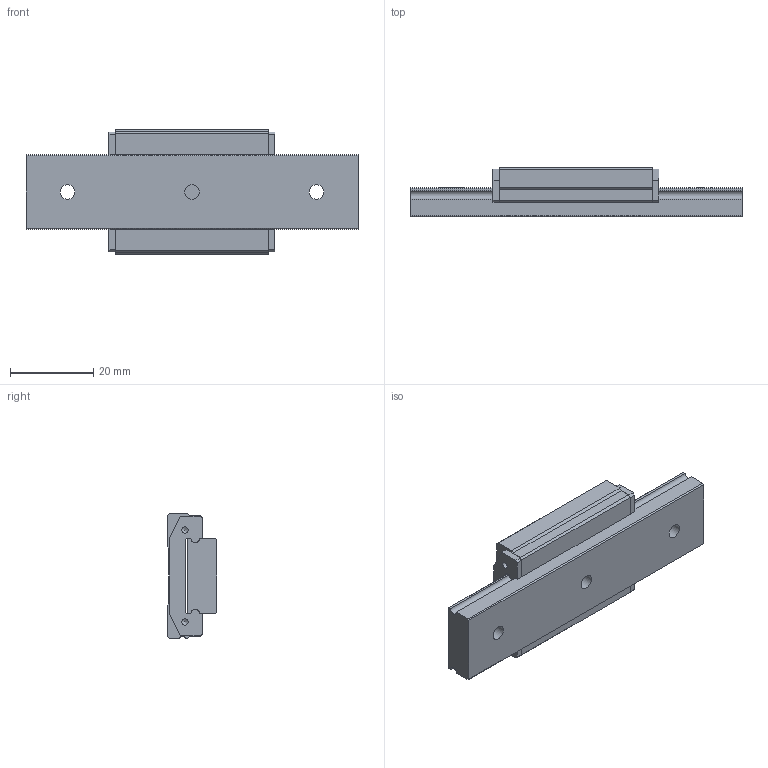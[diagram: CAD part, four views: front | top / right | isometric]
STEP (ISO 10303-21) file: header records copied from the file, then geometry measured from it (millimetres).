
FILE_DESCRIPTION(/* description */ ('STEP AP214'),/* implementation_level */ '2;1');
FILE_NAME(/* name */ 'Minirail 1MNN 18-80-10-10-G3-V0-(1)',/* time_stamp */ '2025-04-17T09:12:15+02:00',/* author */ ('License CC BY-ND 4.0'),/* organization */ ('CADENAS'),/* preprocessor_version */ 'ST-DEVELOPER v19.3',/* originating_system */ 'PARTsolutions',/* authorisation */ ' ');
FILE_SCHEMA (('AUTOMOTIVE_DESIGN {1 0 10303 214 3 1 1}'));
Length unit declared in the file: millimetre
Products named in the file (4): Minirail 1MNN 18-80-10-10-G3-V0-(1); Rail 1 MN18-80-10-10-G3-V0(1); Carriage-MNN18; Wiper-MN18
Assembly tree (4 placements, depth 2):
  Minirail 1MNN 18-80-10-10-G3-V0-(1)
    Rail 1 MN18-80-10-10-G3-V0(1)
    Carriage-MNN18
    Wiper-MN18  x2
Bounding box: 80 x 12 x 30 mm (x, y, z)
Volume: 16203.1 mm3; surface area: 9350.9 mm2
Topology: 4 solids, 4 shells, 129 faces, 332 edges, 218 vertices
Faces by surface type: plane 82, cylinder 31, cone 16
Full cylindrical faces by diameter (mm): 1.5 x4, 2.459 x4, 3.2 x8, 3.5 x3, 6 x3
Entity records: 2945 total; most frequent: CARTESIAN_POINT 488, DIRECTION 484, ORIENTED_EDGE 432, EDGE_CURVE 216, VERTEX_POINT 166, AXIS2_PLACEMENT_3D 162, LINE 160, VECTOR 160
